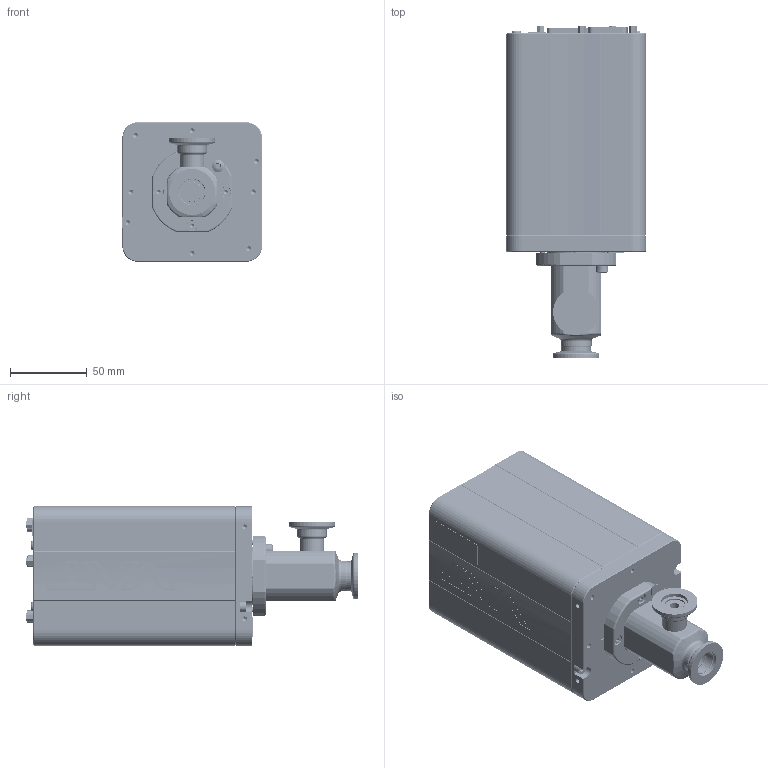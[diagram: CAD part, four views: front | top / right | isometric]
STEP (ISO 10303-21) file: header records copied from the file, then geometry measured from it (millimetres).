
FILE_DESCRIPTION(/* description */ (''),/* implementation_level */ '2;1');
FILE_NAME(/* name */ '1457415474_203.stp',/* time_stamp */ '2023-07-13T13:23:49+02:00',/* author */ (''),/* organization */ (''),/* preprocessor_version */ 'ST-DEVELOPER v19.3',/* originating_system */ 'SIEMENS PLM Software NX2212.3001',/* authorisation */ '');
FILE_SCHEMA (('AP203_CONFIGURATION_CONTROLLED_3D_DESIGN_OF_MECHANICAL_PARTS_AND_ASSEMBLIES_MIM_LF { 1 0 10303 403 2 1 2}'));
Length unit declared in the file: millimetre
Products named in the file (30): 763111_38752ID; 739259; n-6134-406.1; n-6160-408.1; 435831; 927125; 1219394; 853082; 859979; 1202026; 588338; 599925; n-6203-417.1; 584876; 325878.1; 320696.1; 430637; 1062205; 241351_2.1; n-e505-079.1; 224788.1; 847458; 853548; 325243.3; 847466; 739263; 1219420_MODEL; 847243_MODEL; 1205148_MODEL; 1201998
Assembly tree (46 placements, depth 4):
  1201998
    847466  x3
    325243.3  x4
    853548
    847458  x4
    224788.1  x2
    1205148_MODEL
      847243_MODEL
        763111_38752ID
    n-e505-079.1  x6
    241351_2.1
    1062205
    430637
    320696.1
    325878.1
    584876  x4
    1219420_MODEL
      1219394
      927125
    n-6203-417.1
    599925
    588338
    739263
      435831
      n-6160-408.1
      n-6134-406.1
      739259
    1202026
    859979
    853082
Bounding box: 91.35 x 216.5 x 91.02 mm (x, y, z)
Volume: 281830.1 mm3; surface area: 212616.8 mm2
Topology: 69 solids, 69 shells, 10484 faces, 28219 edges, 18409 vertices
Faces by surface type: plane 7285, cylinder 1784, bspline 501, cone 402, torus 319, extrusion 175, sphere 18
Full cylindrical faces by diameter (mm): 0.7 x12, 0.9 x2, 1 x1, 1.4 x2, 1.6 x9, 2 x1, 2.1 x1, 2.449 x4, 2.459 x7, 2.46 x4, 2.5 x23, 3 x18, 3.1 x4, 3.2 x10, 3.26 x2, 3.3 x15, 3.4 x8, 3.78 x4, 3.88 x3, 3.94 x2, 3.99 x4, 4 x5, 4.017 x2, 4.15 x2, 4.19 x3, 4.2 x13, 4.24 x2, 4.3 x2, 4.5 x2, 5.5 x4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
Entity records: 403815 total; most frequent: CARTESIAN_POINT 97645, ORIENTED_EDGE 54404, DIRECTION 48118, EDGE_CURVE 27202, VECTOR 20216, LINE 20041, VERTEX_POINT 17968, AXIS2_PLACEMENT_3D 13951
